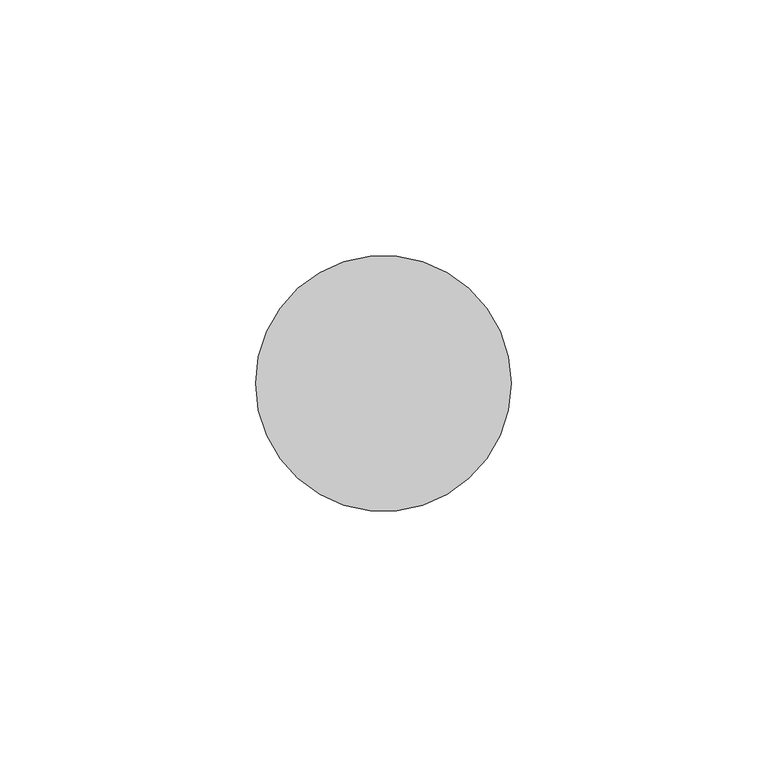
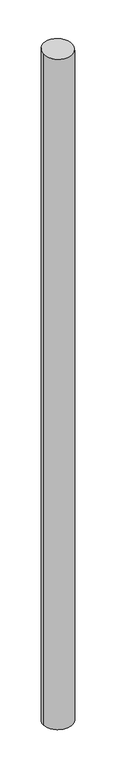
"""IFC4 building model written with IfcOpenShell, lengths in millimetres: member geometry, 圓形豎框 : 25mm 半徑."""

from ifc_helpers import new_model, si_unit, frame, origin, origin_with_axes, place, context, project, spatial, circle_curve, ellipse_curve, source, transform, mapped, element, save
from ifc_brep_helpers import plane_surface, cylinder_surface, advanced_brep


def member_018dfd5b(model_context):
    return source(origin(), model_context, "Body", "AdvancedBrep", [
        advanced_brep(
        [(25.0, 0.0, -1221.063849), (-25.0, 0.0, -1221.063849), (-25.0, 0.0, 0.0), (25.0, 0.0, 0.0)],
        [
            (0, 1, circle_curve(frame((0.0, 0.0, -1221.063849), z_axis=(0.0, 0.0, -1.0), x_axis=(1.0, 0.0, 0.0)), 25.0)),
            (1, 0, circle_curve(frame((0.0, 0.0, -1221.063849), z_axis=(0.0, 0.0, -1.0), x_axis=(1.0, 0.0, 0.0)), 25.0)),
            (2, 3, ellipse_curve(frame((0.0, 0.0, 0.0), z_axis=(0.0, 0.07503340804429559, -0.9971810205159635), x_axis=(0.0, 0.9971810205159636, 0.07503340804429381)), 25.0706737, 25.0)),
            (3, 0),
            (1, 2),
            (3, 2, ellipse_curve(frame((0.0, 0.0, 0.0), z_axis=(0.0, 0.07503340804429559, -0.9971810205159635), x_axis=(0.0, 0.9971810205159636, 0.07503340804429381)), 25.0706737, 25.0)),
        ],
        [
            plane_surface(frame((0.0, -25.0, -1221.063849), z_axis=(0.0, 0.0, -1.0), x_axis=(-1.0, 0.0, 0.0))),
            cylinder_surface(origin_with_axes(), 25.0),
            plane_surface(frame((304.8, 0.0, 0.0), z_axis=(0.0, -0.07503340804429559, 0.9971810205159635), x_axis=(0.0, -0.9971810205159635, -0.07503340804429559))),
        ],
        [
            (0, [[1, 2]]),
            (1, [[3, 4, -2, 5]]),
            (1, [[6, -5, -1, -4]]),
            (2, [[-3, -6]]),
        ],
    ),
    ])


if __name__ == "__main__":
    model = new_model("IFC4")
    model_context = context("Model", 3, world=origin())
    ifc_project = project(units=[si_unit("LENGTHUNIT", "METRE", prefix="MILLI")], contexts=[model_context])
    site = spatial("IfcSite", under=ifc_project)
    building = spatial("IfcBuilding", under=site)
    placement = place(None, origin())
    member_shape = member_018dfd5b(model_context)
    element("IfcMember", 1, ObjectType="圓形豎框 : 25mm 半徑", at=placement, inside=building, context=model_context, shape_type="MappedRepresentation", body=[
        mapped(member_shape, transform((0.0, 0.0, 0.0), x_axis=(1.0, 0.0, 0.0), y_axis=(0.0, 1.0, 0.0), z_axis=(0.0, 0.0, 1.0))),
    ])
    save(model, "model.ifc")
